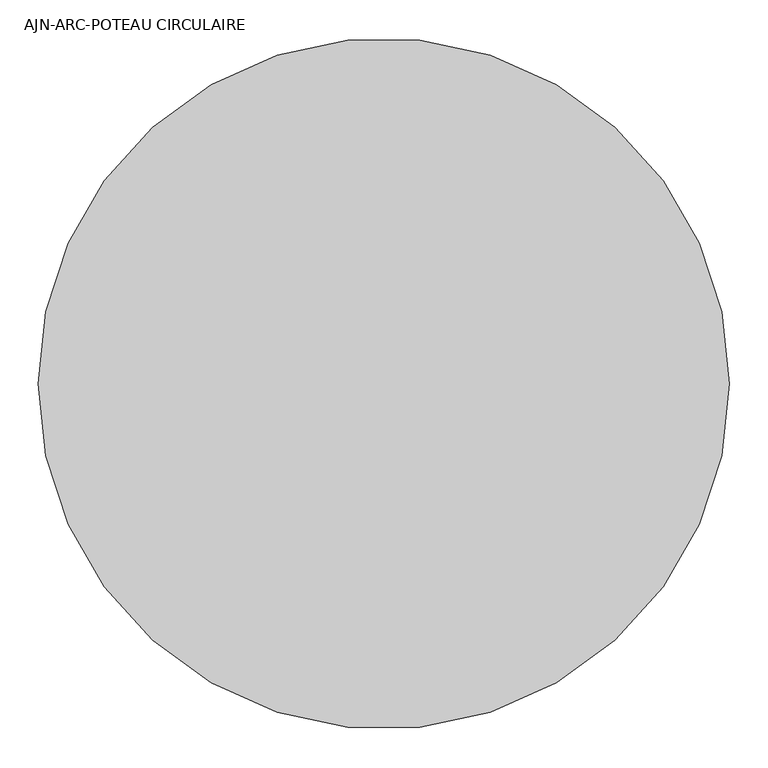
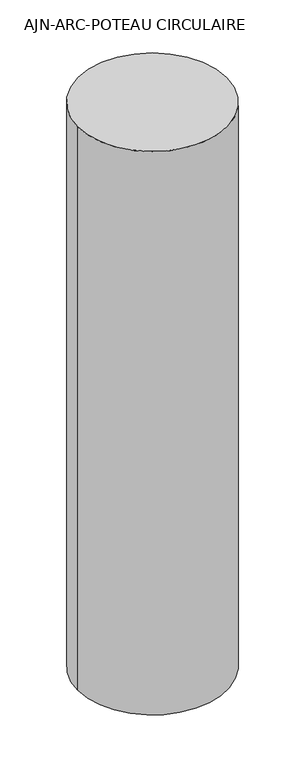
"""IFC4 building model written with IfcOpenShell, lengths in millimetres: column geometry, AJN-ARC-POTEAU CIRCULAIRE : ø90."""

from ifc_helpers import new_model, si_unit, point, frame, origin, origin_2d, place, context, project, spatial, circle_curve, trimmed, segment, composite_curve, outline, extrude, source, transform, mapped, element, save


def ajn_arc_poteau_circulaire_dcd9d2f8(model_context):
    return source(origin(), model_context, "Body", "SweptSolid", [
        extrude(outline(composite_curve([segment(trimmed(circle_curve(origin_2d(), 450.0), [point((-450.0, 0.0))], [point((450.0, 0.0))], False, "CARTESIAN"), True, "CONTINUOUS"), segment(trimmed(circle_curve(origin_2d(), 450.0), [point((450.0, 0.0))], [point((-450.0, 0.0))], False, "CARTESIAN"), True, "CONTINUOUS")], self_intersect=False)), frame((0.0, 0.0, 13599.9999686), z_axis=(0.0, 0.0, 1.0), x_axis=(1.0, 0.0, 0.0)), (0.0, 0.0, 1.0), 3600.0),
    ])


if __name__ == "__main__":
    model = new_model("IFC4")
    model_context = context("Model", 3, world=origin())
    ifc_project = project(units=[si_unit("LENGTHUNIT", "METRE", prefix="MILLI")], contexts=[model_context])
    site = spatial("IfcSite", under=ifc_project)
    building = spatial("IfcBuilding", under=site)
    placement = place(None, origin())
    ajn_arc_poteau_circulaire_shape = ajn_arc_poteau_circulaire_dcd9d2f8(model_context)
    element("IfcColumn", 1, ObjectType="AJN-ARC-POTEAU CIRCULAIRE : ø90", at=placement, inside=building, context=model_context, shape_type="MappedRepresentation", body=[
        mapped(ajn_arc_poteau_circulaire_shape, transform((0.0, 0.0, 0.0), x_axis=(1.0, 0.0, 0.0), y_axis=(0.0, 1.0, 0.0), z_axis=(0.0, 0.0, 1.0))),
    ])
    save(model, "model.ifc")
